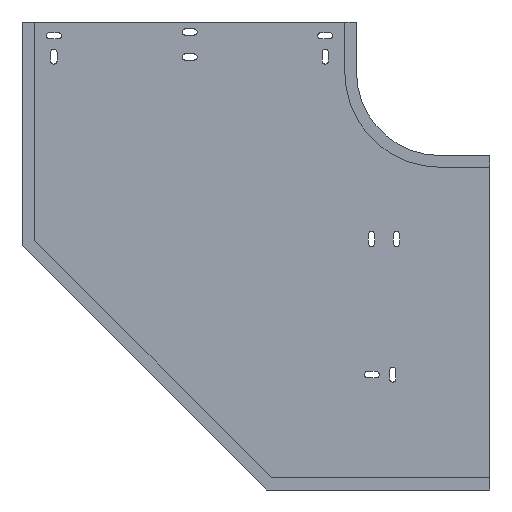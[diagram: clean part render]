
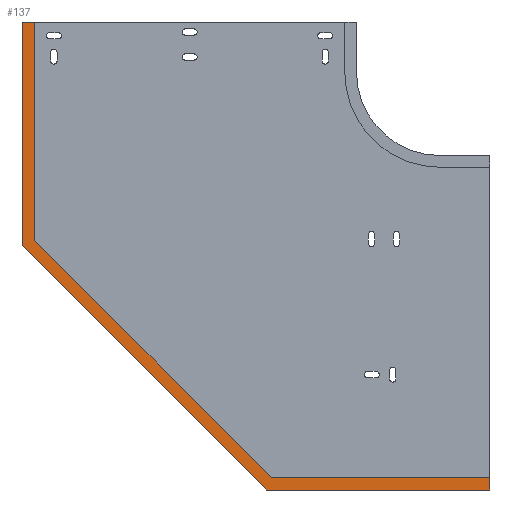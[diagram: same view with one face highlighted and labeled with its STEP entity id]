
A CAD part, front view. The second image highlights one B-rep face of the part: STEP entity #137.
In plain terms, the highlighted planar face has unit normal (0, -1, 0).
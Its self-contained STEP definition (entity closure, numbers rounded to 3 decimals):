
#55 = DIRECTION ( 'NONE',  ( 1., 0., 0. ) ) ;
#137 = ADVANCED_FACE ( 'NONE', ( #1827 ), #4249, .T. ) ;
#526 = EDGE_CURVE ( 'NONE', #5290, #1770, #3918, .T. ) ;
#528 = EDGE_CURVE ( 'NONE', #4400, #596, #3454, .T. ) ;
#537 = VECTOR ( 'NONE', #4357, 1000. ) ;
#596 = VERTEX_POINT ( 'NONE', #4263 ) ;
#655 = DIRECTION ( 'NONE',  ( 1., 0., 0. ) ) ;
#658 = VERTEX_POINT ( 'NONE', #5363 ) ;
#667 = ORIENTED_EDGE ( 'NONE', *, *, #5051, .F. ) ;
#682 = VERTEX_POINT ( 'NONE', #2494 ) ;
#684 = CARTESIAN_POINT ( 'NONE',  ( -261.787, -1., 15. ) ) ;
#727 = EDGE_CURVE ( 'NONE', #658, #4830, #1731, .T. ) ;
#909 = CARTESIAN_POINT ( 'NONE',  ( -268., -1., 0. ) ) ;
#1006 = CARTESIAN_POINT ( 'NONE',  ( -545.742, -1., 298.955 ) ) ;
#1194 = CARTESIAN_POINT ( 'NONE',  ( -545.742, -1., 560.742 ) ) ;
#1387 = ORIENTED_EDGE ( 'NONE', *, *, #727, .F. ) ;
#1504 = EDGE_CURVE ( 'NONE', #658, #5290, #3455, .T. ) ;
#1665 = EDGE_CURVE ( 'NONE', #3598, #682, #4460, .T. ) ;
#1731 = LINE ( 'NONE', #3735, #3371 ) ;
#1770 = VERTEX_POINT ( 'NONE', #1194 ) ;
#1771 = DIRECTION ( 'NONE',  ( 0., -1., 0. ) ) ;
#1791 = CARTESIAN_POINT ( 'NONE',  ( -545.742, -1., 298.955 ) ) ;
#1827 = FACE_OUTER_BOUND ( 'NONE', #4027, .T. ) ;
#1838 = VECTOR ( 'NONE', #655, 1000. ) ;
#1936 = VECTOR ( 'NONE', #3716, 1000. ) ;
#1981 = ORIENTED_EDGE ( 'NONE', *, *, #528, .F. ) ;
#2240 = ORIENTED_EDGE ( 'NONE', *, *, #526, .T. ) ;
#2276 = DIRECTION ( 'NONE',  ( 0., 0., 1. ) ) ;
#2313 = DIRECTION ( 'NONE',  ( -0.707, 0., 0.707 ) ) ;
#2370 = VECTOR ( 'NONE', #2313, 1000. ) ;
#2395 = CARTESIAN_POINT ( 'NONE',  ( 0., -1., 15. ) ) ;
#2494 = CARTESIAN_POINT ( 'NONE',  ( 0., -1., 0. ) ) ;
#2514 = LINE ( 'NONE', #4191, #2624 ) ;
#2526 = ORIENTED_EDGE ( 'NONE', *, *, #1504, .T. ) ;
#2624 = VECTOR ( 'NONE', #4164, 1000. ) ;
#2658 = LINE ( 'NONE', #4304, #2370 ) ;
#2830 = CARTESIAN_POINT ( 'NONE',  ( -326.74, -1., 0. ) ) ;
#2983 = DIRECTION ( 'NONE',  ( 0., 0., -1. ) ) ;
#3166 = CARTESIAN_POINT ( 'NONE',  ( -560.742, -1., 292.742 ) ) ;
#3304 = ORIENTED_EDGE ( 'NONE', *, *, #5350, .T. ) ;
#3371 = VECTOR ( 'NONE', #55, 1000. ) ;
#3454 = LINE ( 'NONE', #3166, #5127 ) ;
#3455 = LINE ( 'NONE', #684, #537 ) ;
#3468 = CARTESIAN_POINT ( 'NONE',  ( -326.74, -1., 15. ) ) ;
#3514 = DIRECTION ( 'NONE',  ( 0., 0., 1. ) ) ;
#3598 = VERTEX_POINT ( 'NONE', #909 ) ;
#3716 = DIRECTION ( 'NONE',  ( 0., 0., -1. ) ) ;
#3735 = CARTESIAN_POINT ( 'NONE',  ( -326.74, -1., 15. ) ) ;
#3882 = ORIENTED_EDGE ( 'NONE', *, *, #1665, .T. ) ;
#3918 = LINE ( 'NONE', #1006, #4322 ) ;
#4027 = EDGE_LOOP ( 'NONE', ( #1387, #2526, #2240, #3304, #1981, #667, #3882, #4650 ) ) ;
#4164 = DIRECTION ( 'NONE',  ( -1., 0., 0. ) ) ;
#4191 = CARTESIAN_POINT ( 'NONE',  ( -420.003, -1., 560.742 ) ) ;
#4249 = PLANE ( 'NONE',  #4666 ) ;
#4263 = CARTESIAN_POINT ( 'NONE',  ( -560.742, -1., 560.742 ) ) ;
#4304 = CARTESIAN_POINT ( 'NONE',  ( -268., -1., 0. ) ) ;
#4322 = VECTOR ( 'NONE', #3514, 1000. ) ;
#4357 = DIRECTION ( 'NONE',  ( -0.707, 0., 0.707 ) ) ;
#4367 = EDGE_CURVE ( 'NONE', #4830, #682, #5372, .T. ) ;
#4400 = VERTEX_POINT ( 'NONE', #4455 ) ;
#4455 = CARTESIAN_POINT ( 'NONE',  ( -560.742, -1., 292.742 ) ) ;
#4460 = LINE ( 'NONE', #2830, #1838 ) ;
#4537 = CARTESIAN_POINT ( 'NONE',  ( 0., -1., 15. ) ) ;
#4650 = ORIENTED_EDGE ( 'NONE', *, *, #4367, .F. ) ;
#4666 = AXIS2_PLACEMENT_3D ( 'NONE', #3468, #1771, #2983 ) ;
#4830 = VERTEX_POINT ( 'NONE', #2395 ) ;
#5051 = EDGE_CURVE ( 'NONE', #3598, #4400, #2658, .T. ) ;
#5127 = VECTOR ( 'NONE', #2276, 1000. ) ;
#5290 = VERTEX_POINT ( 'NONE', #1791 ) ;
#5350 = EDGE_CURVE ( 'NONE', #1770, #596, #2514, .T. ) ;
#5363 = CARTESIAN_POINT ( 'NONE',  ( -261.787, -1., 15. ) ) ;
#5372 = LINE ( 'NONE', #4537, #1936 ) ;
